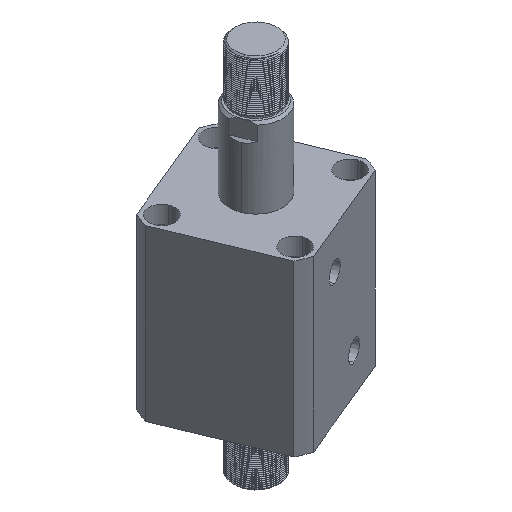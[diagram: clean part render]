
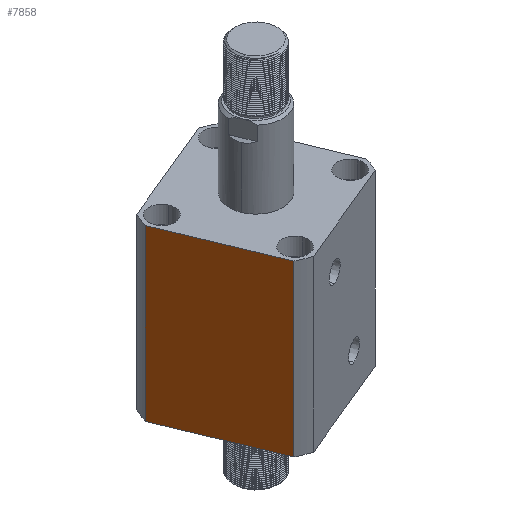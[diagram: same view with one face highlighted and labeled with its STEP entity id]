
A CAD part, isometric view. The second image highlights one B-rep face of the part: STEP entity #7858.
In plain terms, the highlighted planar face has unit normal (-0.924, -0.383, 0) as drawn and (1, 0, 0) by its records, which use the part's own axes.
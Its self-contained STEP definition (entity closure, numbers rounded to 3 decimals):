
#211 = ORIENTED_EDGE ( 'NONE', *, *, #20620, .T. ) ;
#1690 = DIRECTION ( 'NONE',  ( 0., -1., 0. ) ) ;
#2187 = CARTESIAN_POINT ( 'NONE',  ( 57., -47.971, 143. ) ) ;
#2368 = DIRECTION ( 'NONE',  ( 0., 0., -1. ) ) ;
#2421 = VERTEX_POINT ( 'NONE', #16665 ) ;
#2503 = CARTESIAN_POINT ( 'NONE',  ( 57., 57., 143. ) ) ;
#3999 = EDGE_CURVE ( 'NONE', #10655, #19116, #5307, .T. ) ;
#4764 = VECTOR ( 'NONE', #2368, 1000. ) ;
#5307 = LINE ( 'NONE', #22870, #9412 ) ;
#5635 = CARTESIAN_POINT ( 'NONE',  ( 57., 57., 143. ) ) ;
#6844 = DIRECTION ( 'NONE',  ( 0., 1., 0. ) ) ;
#7858 = ADVANCED_FACE ( 'NONE', ( #23525 ), #25876, .F. ) ;
#8879 = LINE ( 'NONE', #16437, #4764 ) ;
#9412 = VECTOR ( 'NONE', #12765, 1000. ) ;
#10655 = VERTEX_POINT ( 'NONE', #16632 ) ;
#12765 = DIRECTION ( 'NONE',  ( 0., 0., 1. ) ) ;
#13731 = DIRECTION ( 'NONE',  ( -1., 0., 0. ) ) ;
#14553 = DIRECTION ( 'NONE',  ( 0., 1., 0. ) ) ;
#14966 = VECTOR ( 'NONE', #6844, 1000. ) ;
#16437 = CARTESIAN_POINT ( 'NONE',  ( 57., 47.971, -157. ) ) ;
#16632 = CARTESIAN_POINT ( 'NONE',  ( 57., -47.971, 0. ) ) ;
#16665 = CARTESIAN_POINT ( 'NONE',  ( 57., 47.971, 143. ) ) ;
#18941 = CARTESIAN_POINT ( 'NONE',  ( 57., 57., 0. ) ) ;
#18972 = ORIENTED_EDGE ( 'NONE', *, *, #3999, .F. ) ;
#19116 = VERTEX_POINT ( 'NONE', #2187 ) ;
#19830 = ORIENTED_EDGE ( 'NONE', *, *, #22523, .F. ) ;
#19833 = AXIS2_PLACEMENT_3D ( 'NONE', #5635, #13731, #1690 ) ;
#20029 = VECTOR ( 'NONE', #14553, 1000. ) ;
#20620 = EDGE_CURVE ( 'NONE', #10655, #22647, #21007, .T. ) ;
#21007 = LINE ( 'NONE', #18941, #14966 ) ;
#22523 = EDGE_CURVE ( 'NONE', #19116, #2421, #24749, .T. ) ;
#22647 = VERTEX_POINT ( 'NONE', #24909 ) ;
#22870 = CARTESIAN_POINT ( 'NONE',  ( 57., -47.971, -157. ) ) ;
#23436 = ORIENTED_EDGE ( 'NONE', *, *, #25979, .F. ) ;
#23525 = FACE_OUTER_BOUND ( 'NONE', #24543, .T. ) ;
#24543 = EDGE_LOOP ( 'NONE', ( #18972, #211, #23436, #19830 ) ) ;
#24749 = LINE ( 'NONE', #2503, #20029 ) ;
#24909 = CARTESIAN_POINT ( 'NONE',  ( 57., 47.971, 0. ) ) ;
#25876 = PLANE ( 'NONE',  #19833 ) ;
#25979 = EDGE_CURVE ( 'NONE', #2421, #22647, #8879, .T. ) ;
